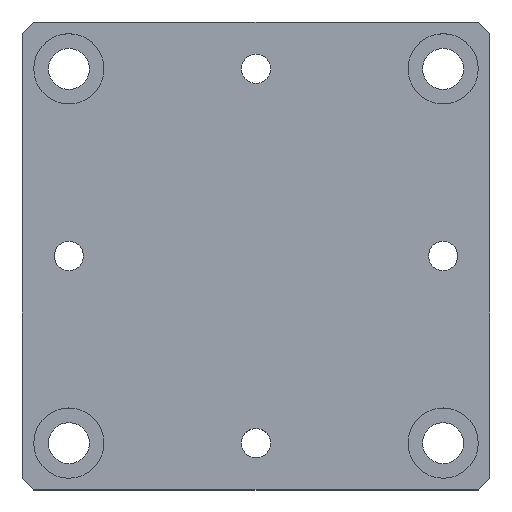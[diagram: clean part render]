
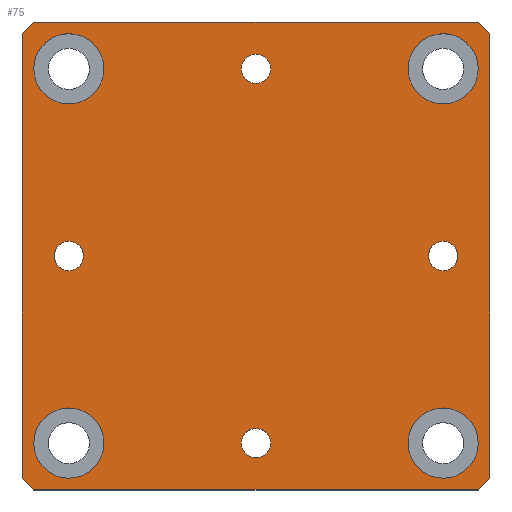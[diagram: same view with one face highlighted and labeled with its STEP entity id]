
A CAD part, top view. The second image highlights one B-rep face of the part: STEP entity #75.
In plain terms, the highlighted planar face has unit normal (0, 0, 1).
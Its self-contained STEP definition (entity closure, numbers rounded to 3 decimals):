
#75 = ADVANCED_FACE( '', ( #102, #103, #104, #105, #106, #107, #108, #109, #110 ), #111, .T. );
#102 = FACE_OUTER_BOUND( '', #186, .T. );
#103 = FACE_BOUND( '', #187, .T. );
#104 = FACE_BOUND( '', #188, .T. );
#105 = FACE_BOUND( '', #189, .T. );
#106 = FACE_BOUND( '', #190, .T. );
#107 = FACE_BOUND( '', #191, .T. );
#108 = FACE_BOUND( '', #192, .T. );
#109 = FACE_BOUND( '', #193, .T. );
#110 = FACE_BOUND( '', #194, .T. );
#111 = PLANE( '', #195 );
#186 = EDGE_LOOP( '', ( #270, #271, #272, #273, #274, #275, #276, #277 ) );
#187 = EDGE_LOOP( '', ( #278 ) );
#188 = EDGE_LOOP( '', ( #279 ) );
#189 = EDGE_LOOP( '', ( #280 ) );
#190 = EDGE_LOOP( '', ( #281 ) );
#191 = EDGE_LOOP( '', ( #282 ) );
#192 = EDGE_LOOP( '', ( #283 ) );
#193 = EDGE_LOOP( '', ( #284 ) );
#194 = EDGE_LOOP( '', ( #285 ) );
#195 = AXIS2_PLACEMENT_3D( '', #286, #287, #288 );
#270 = ORIENTED_EDGE( '', *, *, #444, .F. );
#271 = ORIENTED_EDGE( '', *, *, #445, .T. );
#272 = ORIENTED_EDGE( '', *, *, #446, .F. );
#273 = ORIENTED_EDGE( '', *, *, #447, .T. );
#274 = ORIENTED_EDGE( '', *, *, #448, .F. );
#275 = ORIENTED_EDGE( '', *, *, #449, .T. );
#276 = ORIENTED_EDGE( '', *, *, #450, .F. );
#277 = ORIENTED_EDGE( '', *, *, #451, .T. );
#278 = ORIENTED_EDGE( '', *, *, #452, .T. );
#279 = ORIENTED_EDGE( '', *, *, #453, .T. );
#280 = ORIENTED_EDGE( '', *, *, #454, .T. );
#281 = ORIENTED_EDGE( '', *, *, #455, .T. );
#282 = ORIENTED_EDGE( '', *, *, #456, .T. );
#283 = ORIENTED_EDGE( '', *, *, #457, .T. );
#284 = ORIENTED_EDGE( '', *, *, #458, .T. );
#285 = ORIENTED_EDGE( '', *, *, #459, .T. );
#286 = CARTESIAN_POINT( '', ( 0., 0., 3. ) );
#287 = DIRECTION( '', ( 0., 0., 1. ) );
#288 = DIRECTION( '', ( 1., 0., 0. ) );
#444 = EDGE_CURVE( '', #492, #493, #494, .T. );
#445 = EDGE_CURVE( '', #492, #495, #496, .T. );
#446 = EDGE_CURVE( '', #497, #495, #498, .T. );
#447 = EDGE_CURVE( '', #497, #499, #500, .T. );
#448 = EDGE_CURVE( '', #501, #499, #502, .T. );
#449 = EDGE_CURVE( '', #501, #503, #504, .T. );
#450 = EDGE_CURVE( '', #505, #503, #506, .T. );
#451 = EDGE_CURVE( '', #505, #493, #507, .T. );
#452 = EDGE_CURVE( '', #508, #508, #509, .T. );
#453 = EDGE_CURVE( '', #510, #510, #511, .T. );
#454 = EDGE_CURVE( '', #512, #512, #513, .T. );
#455 = EDGE_CURVE( '', #514, #514, #515, .T. );
#456 = EDGE_CURVE( '', #516, #516, #517, .T. );
#457 = EDGE_CURVE( '', #518, #518, #519, .T. );
#458 = EDGE_CURVE( '', #520, #520, #521, .T. );
#459 = EDGE_CURVE( '', #522, #522, #523, .T. );
#492 = VERTEX_POINT( '', #580 );
#493 = VERTEX_POINT( '', #581 );
#494 = LINE( '', #582, #583 );
#495 = VERTEX_POINT( '', #584 );
#496 = LINE( '', #585, #586 );
#497 = VERTEX_POINT( '', #587 );
#498 = LINE( '', #588, #589 );
#499 = VERTEX_POINT( '', #590 );
#500 = LINE( '', #591, #592 );
#501 = VERTEX_POINT( '', #593 );
#502 = LINE( '', #594, #595 );
#503 = VERTEX_POINT( '', #596 );
#504 = LINE( '', #597, #598 );
#505 = VERTEX_POINT( '', #599 );
#506 = LINE( '', #600, #601 );
#507 = LINE( '', #602, #603 );
#508 = VERTEX_POINT( '', #604 );
#509 = CIRCLE( '', #605, 1.25 );
#510 = VERTEX_POINT( '', #606 );
#511 = CIRCLE( '', #607, 1.25 );
#512 = VERTEX_POINT( '', #608 );
#513 = CIRCLE( '', #609, 1.25 );
#514 = VERTEX_POINT( '', #610 );
#515 = CIRCLE( '', #611, 1.25 );
#516 = VERTEX_POINT( '', #612 );
#517 = CIRCLE( '', #613, 3. );
#518 = VERTEX_POINT( '', #614 );
#519 = CIRCLE( '', #615, 3. );
#520 = VERTEX_POINT( '', #616 );
#521 = CIRCLE( '', #617, 3. );
#522 = VERTEX_POINT( '', #618 );
#523 = CIRCLE( '', #619, 3. );
#580 = CARTESIAN_POINT( '', ( -19., 20., 3. ) );
#581 = CARTESIAN_POINT( '', ( 19., 20., 3. ) );
#582 = CARTESIAN_POINT( '', ( 0., 20., 3. ) );
#583 = VECTOR( '', #692, 1000. );
#584 = CARTESIAN_POINT( '', ( -20., 19., 3. ) );
#585 = CARTESIAN_POINT( '', ( -19.5, 19.5, 3. ) );
#586 = VECTOR( '', #693, 1000. );
#587 = CARTESIAN_POINT( '', ( -20., -19., 3. ) );
#588 = CARTESIAN_POINT( '', ( -20., 0., 3. ) );
#589 = VECTOR( '', #694, 1000. );
#590 = CARTESIAN_POINT( '', ( -19., -20., 3. ) );
#591 = CARTESIAN_POINT( '', ( -19.5, -19.5, 3. ) );
#592 = VECTOR( '', #695, 1000. );
#593 = CARTESIAN_POINT( '', ( 19., -20., 3. ) );
#594 = CARTESIAN_POINT( '', ( 0., -20., 3. ) );
#595 = VECTOR( '', #696, 1000. );
#596 = CARTESIAN_POINT( '', ( 20., -19., 3. ) );
#597 = CARTESIAN_POINT( '', ( 19.5, -19.5, 3. ) );
#598 = VECTOR( '', #697, 1000. );
#599 = CARTESIAN_POINT( '', ( 20., 19., 3. ) );
#600 = CARTESIAN_POINT( '', ( 20., 0., 3. ) );
#601 = VECTOR( '', #698, 1000. );
#602 = CARTESIAN_POINT( '', ( 19.5, 19.5, 3. ) );
#603 = VECTOR( '', #699, 1000. );
#604 = CARTESIAN_POINT( '', ( -16., -1.25, 3. ) );
#605 = AXIS2_PLACEMENT_3D( '', #700, #701, #702 );
#606 = CARTESIAN_POINT( '', ( -1.25, 16., 3. ) );
#607 = AXIS2_PLACEMENT_3D( '', #703, #704, #705 );
#608 = CARTESIAN_POINT( '', ( 16., 1.25, 3. ) );
#609 = AXIS2_PLACEMENT_3D( '', #706, #707, #708 );
#610 = CARTESIAN_POINT( '', ( 1.25, -16., 3. ) );
#611 = AXIS2_PLACEMENT_3D( '', #709, #710, #711 );
#612 = CARTESIAN_POINT( '', ( -13., -16., 3. ) );
#613 = AXIS2_PLACEMENT_3D( '', #712, #713, #714 );
#614 = CARTESIAN_POINT( '', ( -13., 16., 3. ) );
#615 = AXIS2_PLACEMENT_3D( '', #715, #716, #717 );
#616 = CARTESIAN_POINT( '', ( 19., 16., 3. ) );
#617 = AXIS2_PLACEMENT_3D( '', #718, #719, #720 );
#618 = CARTESIAN_POINT( '', ( 19., -16., 3. ) );
#619 = AXIS2_PLACEMENT_3D( '', #721, #722, #723 );
#692 = DIRECTION( '', ( 1., 0., 0. ) );
#693 = DIRECTION( '', ( -0.707, -0.707, 0. ) );
#694 = DIRECTION( '', ( 0., 1., 0. ) );
#695 = DIRECTION( '', ( 0.707, -0.707, 0. ) );
#696 = DIRECTION( '', ( -1., 0., 0. ) );
#697 = DIRECTION( '', ( 0.707, 0.707, 0. ) );
#698 = DIRECTION( '', ( 0., -1., 0. ) );
#699 = DIRECTION( '', ( -0.707, 0.707, 0. ) );
#700 = CARTESIAN_POINT( '', ( -16., 0., 3. ) );
#701 = DIRECTION( '', ( 0., 0., -1. ) );
#702 = DIRECTION( '', ( 0., -1., 0. ) );
#703 = CARTESIAN_POINT( '', ( 0., 16., 3. ) );
#704 = DIRECTION( '', ( 0., 0., -1. ) );
#705 = DIRECTION( '', ( -1., 0., 0. ) );
#706 = CARTESIAN_POINT( '', ( 16., 0., 3. ) );
#707 = DIRECTION( '', ( 0., 0., -1. ) );
#708 = DIRECTION( '', ( 0., 1., 0. ) );
#709 = CARTESIAN_POINT( '', ( 0., -16., 3. ) );
#710 = DIRECTION( '', ( 0., 0., -1. ) );
#711 = DIRECTION( '', ( 1., 0., 0. ) );
#712 = CARTESIAN_POINT( '', ( -16., -16., 3. ) );
#713 = DIRECTION( '', ( 0., 0., -1. ) );
#714 = DIRECTION( '', ( 1., 0., 0. ) );
#715 = CARTESIAN_POINT( '', ( -16., 16., 3. ) );
#716 = DIRECTION( '', ( 0., 0., -1. ) );
#717 = DIRECTION( '', ( 1., 0., 0. ) );
#718 = CARTESIAN_POINT( '', ( 16., 16., 3. ) );
#719 = DIRECTION( '', ( 0., 0., -1. ) );
#720 = DIRECTION( '', ( 1., 0., 0. ) );
#721 = CARTESIAN_POINT( '', ( 16., -16., 3. ) );
#722 = DIRECTION( '', ( 0., 0., -1. ) );
#723 = DIRECTION( '', ( 1., 0., 0. ) );
